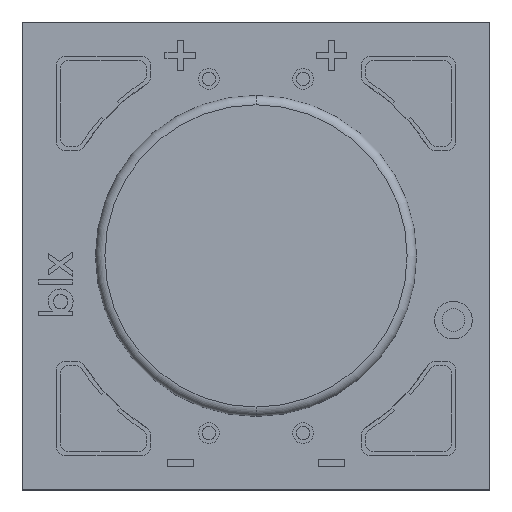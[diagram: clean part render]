
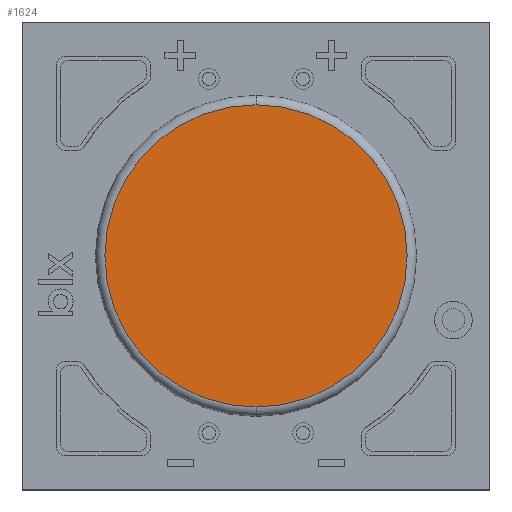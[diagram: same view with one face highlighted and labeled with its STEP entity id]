
A CAD part, top view. The second image highlights one B-rep face of the part: STEP entity #1624.
In plain terms, the highlighted planar face has unit normal (0, 0, 1).
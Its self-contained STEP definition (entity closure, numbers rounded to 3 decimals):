
#917 = CARTESIAN_POINT ( 'NONE',  ( -1.364, -3.91, 13.5 ) ) ;
#1245 = CARTESIAN_POINT ( 'NONE',  ( -1.364, 0.095, 13.5 ) ) ;
#1624 = ADVANCED_FACE ( 'NONE', ( #6558 ), #7409, .T. ) ;
#2020 = DIRECTION ( 'NONE',  ( 0., -1., 0. ) ) ;
#2662 = EDGE_CURVE ( 'NONE', #8456, #7365, #5660, .T. ) ;
#2708 = CARTESIAN_POINT ( 'NONE',  ( -1.364, 0.095, 13.5 ) ) ;
#2747 = CARTESIAN_POINT ( 'NONE',  ( -1.364, 4.1, 13.5 ) ) ;
#3006 = DIRECTION ( 'NONE',  ( 1., 0., 0. ) ) ;
#3466 = AXIS2_PLACEMENT_3D ( 'NONE', #4819, #7904, #3006 ) ;
#3498 = DIRECTION ( 'NONE',  ( 0., -1., 0. ) ) ;
#4819 = CARTESIAN_POINT ( 'NONE',  ( -1.364, 0.095, 13.5 ) ) ;
#5427 = CIRCLE ( 'NONE', #9521, 4.005 ) ;
#5660 = CIRCLE ( 'NONE', #9362, 4.005 ) ;
#6558 = FACE_OUTER_BOUND ( 'NONE', #8823, .T. ) ;
#6668 = DIRECTION ( 'NONE',  ( 0., 0., 1. ) ) ;
#7344 = EDGE_CURVE ( 'NONE', #7365, #8456, #5427, .T. ) ;
#7365 = VERTEX_POINT ( 'NONE', #2747 ) ;
#7409 = PLANE ( 'NONE',  #3466 ) ;
#7776 = ORIENTED_EDGE ( 'NONE', *, *, #2662, .T. ) ;
#7904 = DIRECTION ( 'NONE',  ( 0., 0., 1. ) ) ;
#8124 = DIRECTION ( 'NONE',  ( 0., 0., 1. ) ) ;
#8456 = VERTEX_POINT ( 'NONE', #917 ) ;
#8823 = EDGE_LOOP ( 'NONE', ( #7776, #8965 ) ) ;
#8965 = ORIENTED_EDGE ( 'NONE', *, *, #7344, .T. ) ;
#9362 = AXIS2_PLACEMENT_3D ( 'NONE', #1245, #6668, #2020 ) ;
#9521 = AXIS2_PLACEMENT_3D ( 'NONE', #2708, #8124, #3498 ) ;
